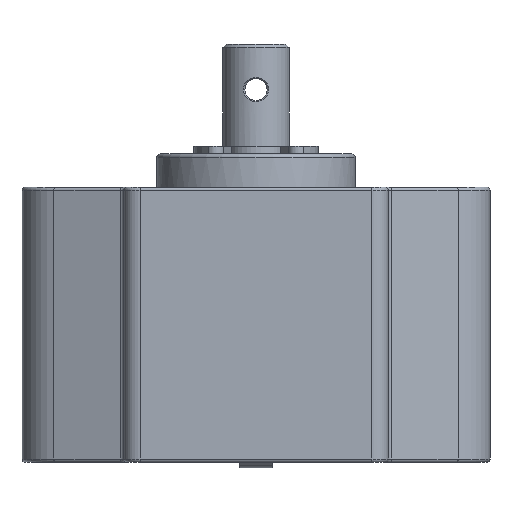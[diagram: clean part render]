
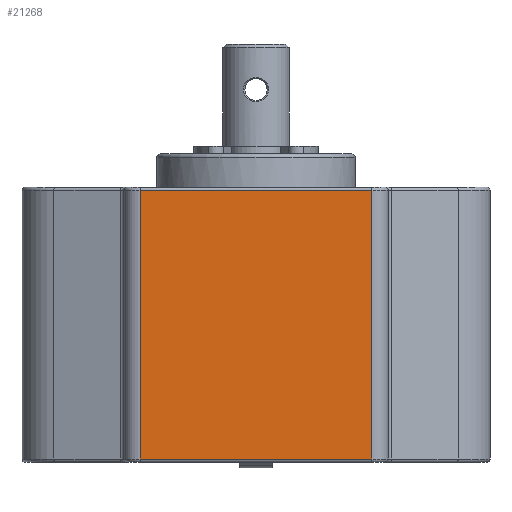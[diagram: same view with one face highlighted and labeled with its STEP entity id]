
A CAD part, front view. The second image highlights one B-rep face of the part: STEP entity #21268.
In plain terms, the highlighted planar face has unit normal (0, -1, 0).
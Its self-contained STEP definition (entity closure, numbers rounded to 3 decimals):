
#171 = DIRECTION ( 'NONE',  ( -1., 0., 0. ) ) ;
#295 = LINE ( 'NONE', #2280, #11407 ) ;
#644 = DIRECTION ( 'NONE',  ( 0., 0., -1. ) ) ;
#876 = VERTEX_POINT ( 'NONE', #20804 ) ;
#1402 = ORIENTED_EDGE ( 'NONE', *, *, #4021, .T. ) ;
#1801 = FACE_OUTER_BOUND ( 'NONE', #20459, .T. ) ;
#2280 = CARTESIAN_POINT ( 'NONE',  ( 10.5, -13., -28. ) ) ;
#2304 = CARTESIAN_POINT ( 'NONE',  ( -10.5, -13., -3.3 ) ) ;
#3593 = LINE ( 'NONE', #19142, #15027 ) ;
#4021 = EDGE_CURVE ( 'NONE', #20747, #16103, #12818, .T. ) ;
#4360 = DIRECTION ( 'NONE',  ( 1., 0., 0. ) ) ;
#5605 = EDGE_CURVE ( 'NONE', #16103, #876, #295, .T. ) ;
#5838 = DIRECTION ( 'NONE',  ( 0., 0., 1. ) ) ;
#5967 = LINE ( 'NONE', #7211, #10766 ) ;
#6412 = ORIENTED_EDGE ( 'NONE', *, *, #5605, .T. ) ;
#7211 = CARTESIAN_POINT ( 'NONE',  ( -10.5, -13., -28. ) ) ;
#8065 = ORIENTED_EDGE ( 'NONE', *, *, #8975, .T. ) ;
#8975 = EDGE_CURVE ( 'NONE', #876, #13712, #3593, .T. ) ;
#9219 = VECTOR ( 'NONE', #4360, 1000. ) ;
#9828 = EDGE_CURVE ( 'NONE', #13712, #20747, #5967, .T. ) ;
#10239 = CARTESIAN_POINT ( 'NONE',  ( -12., -13., -28. ) ) ;
#10766 = VECTOR ( 'NONE', #644, 1000. ) ;
#11285 = DIRECTION ( 'NONE',  ( 0., 0., -1. ) ) ;
#11404 = DIRECTION ( 'NONE',  ( 0., -1., 0. ) ) ;
#11407 = VECTOR ( 'NONE', #5838, 1000. ) ;
#12563 = CARTESIAN_POINT ( 'NONE',  ( -10.5, -13., -27.7 ) ) ;
#12599 = CARTESIAN_POINT ( 'NONE',  ( 10.5, -13., -27.7 ) ) ;
#12818 = LINE ( 'NONE', #12599, #9219 ) ;
#13712 = VERTEX_POINT ( 'NONE', #2304 ) ;
#15027 = VECTOR ( 'NONE', #171, 1000. ) ;
#15119 = CARTESIAN_POINT ( 'NONE',  ( 10.5, -13., -27.7 ) ) ;
#16103 = VERTEX_POINT ( 'NONE', #15119 ) ;
#18536 = ORIENTED_EDGE ( 'NONE', *, *, #9828, .T. ) ;
#19142 = CARTESIAN_POINT ( 'NONE',  ( -12., -13., -3.3 ) ) ;
#19731 = PLANE ( 'NONE',  #19959 ) ;
#19959 = AXIS2_PLACEMENT_3D ( 'NONE', #10239, #11404, #11285 ) ;
#20459 = EDGE_LOOP ( 'NONE', ( #6412, #8065, #18536, #1402 ) ) ;
#20747 = VERTEX_POINT ( 'NONE', #12563 ) ;
#20804 = CARTESIAN_POINT ( 'NONE',  ( 10.5, -13., -3.3 ) ) ;
#21268 = ADVANCED_FACE ( 'NONE', ( #1801 ), #19731, .T. ) ;
